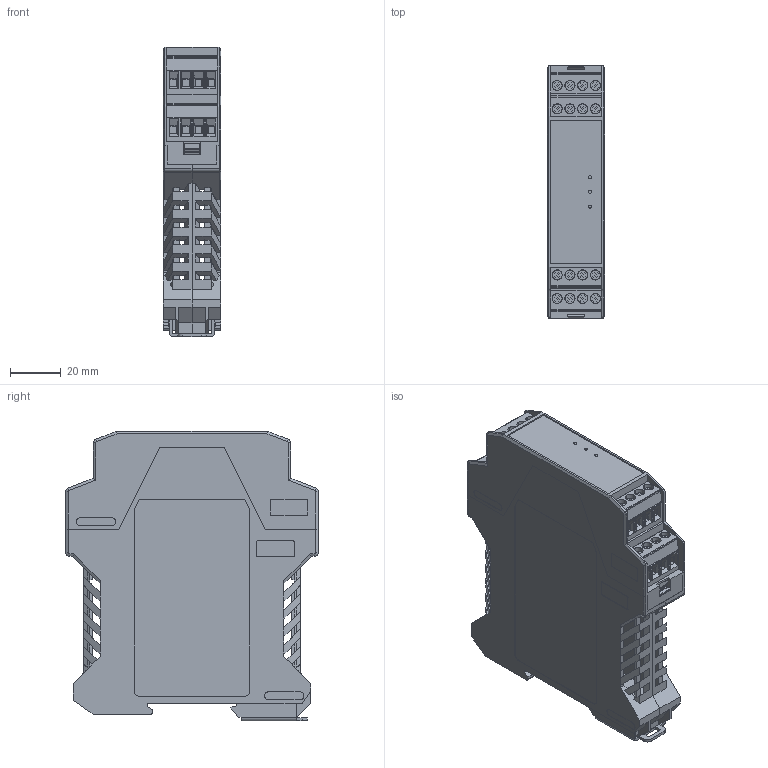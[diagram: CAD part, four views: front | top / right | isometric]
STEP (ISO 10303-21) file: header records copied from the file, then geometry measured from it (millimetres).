
FILE_DESCRIPTION(('STEP AP203'),'1');
FILE_NAME('1330803.stp','2024-11-12T07:30:26',('TraceParts'),('TraceParts S.A.'),'Spatial InterOp 3D',' ',' ');
FILE_SCHEMA(('CONFIG_CONTROL_DESIGN'));
Length unit declared in the file: millimetre
Products named in the file (1): 1
Bounding box: 22.6 x 99 x 113.6 mm (x, y, z)
Volume: 63072 mm3; surface area: 69412.6 mm2
Topology: 13 solids, 13 shells, 1880 faces, 5391 edges, 3524 vertices
Faces by surface type: plane 1512, cylinder 346, cone 12, torus 10
Entity records: 61005 total; most frequent: CARTESIAN_POINT 10808, ORIENTED_EDGE 10782, DIRECTION 10003, EDGE_CURVE 5391, LINE 4565, VECTOR 4565, VERTEX_POINT 3524, AXIS2_PLACEMENT_3D 2719
